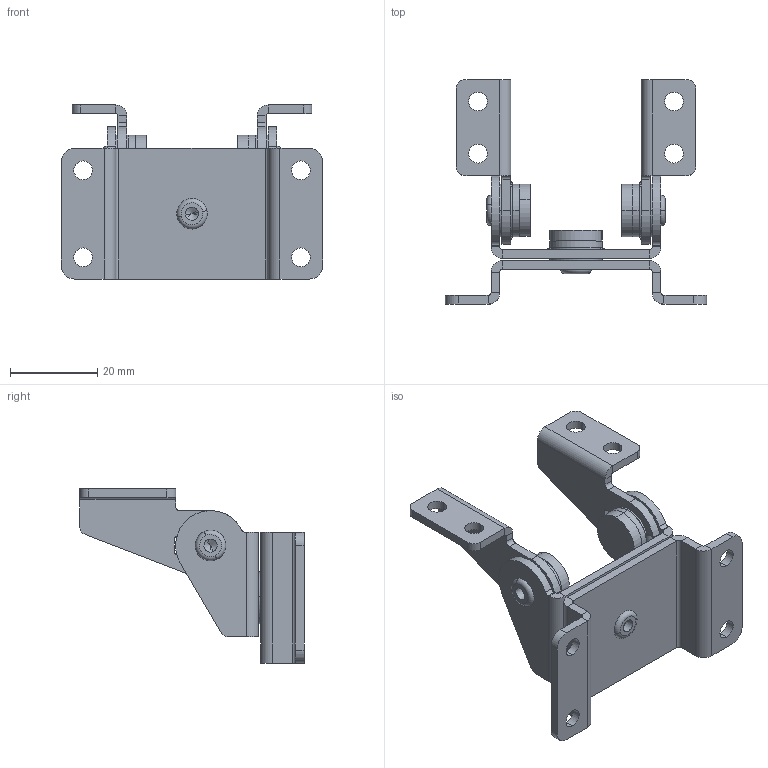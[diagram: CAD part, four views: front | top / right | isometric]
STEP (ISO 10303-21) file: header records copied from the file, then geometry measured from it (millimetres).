
FILE_DESCRIPTION (( 'STEP AP203' ), '1' );
FILE_NAME ('SC170-04197_HG-T30S15_2軸トルクヒンジ_0.step', '2014-02-10T02:34:09', ( ' ' ), ( '' ), 'SwSTEP 2.0', 'SolidWorks 2011', '' );
FILE_SCHEMA (( 'CONFIG_CONTROL_DESIGN' ));
Length unit declared in the file: millimetre
Products named in the file (9): SC170-04197_HG-T30S15_2軸トルクヒンジ_0; SC170-04198_HG-T30S15_F僾儗乕僩; SC170-04204_HG-T30S15_軸; SC170-04199_HG-T30S15_僗僾儕儞僌W; SC170-07740_HG-T30S15_F僾儗乕僩A; SC170-04202_HG-T30S15_僽儔働僢僩R; SC170-04201_HG-T30S15_僽儔働僢僩L; SC170-04200_HG-T30S15_チルトベース; SC170-04203_HG-T30S15_ベースプレート
Assembly tree (16 placements, depth 2):
  SC170-04197_HG-T30S15_2軸トルクヒンジ_0
    SC170-04198_HG-T30S15_F僾儗乕僩  x3
    SC170-04204_HG-T30S15_軸  x3
    SC170-04199_HG-T30S15_僗僾儕儞僌W  x3
    SC170-07740_HG-T30S15_F僾儗乕僩A  x3
    SC170-04200_HG-T30S15_チルトベース
    SC170-04202_HG-T30S15_僽儔働僢僩R
    SC170-04201_HG-T30S15_僽儔働僢僩L
    SC170-04203_HG-T30S15_ベースプレート
Bounding box: 60 x 51.5 x 40 mm (x, y, z)
Volume: 11992.5 mm3; surface area: 15430.4 mm2
Topology: 16 solids, 16 shells, 556 faces, 1436 edges, 931 vertices
Faces by surface type: plane 276, cylinder 179, bspline 89, torus 6, cone 6
Entity records: 15483 total; most frequent: CARTESIAN_POINT 3583, ORIENTED_EDGE 2348, DIRECTION 1988, EDGE_CURVE 1174, VERTEX_POINT 761, LINE 744, VECTOR 744, AXIS2_PLACEMENT_3D 622
